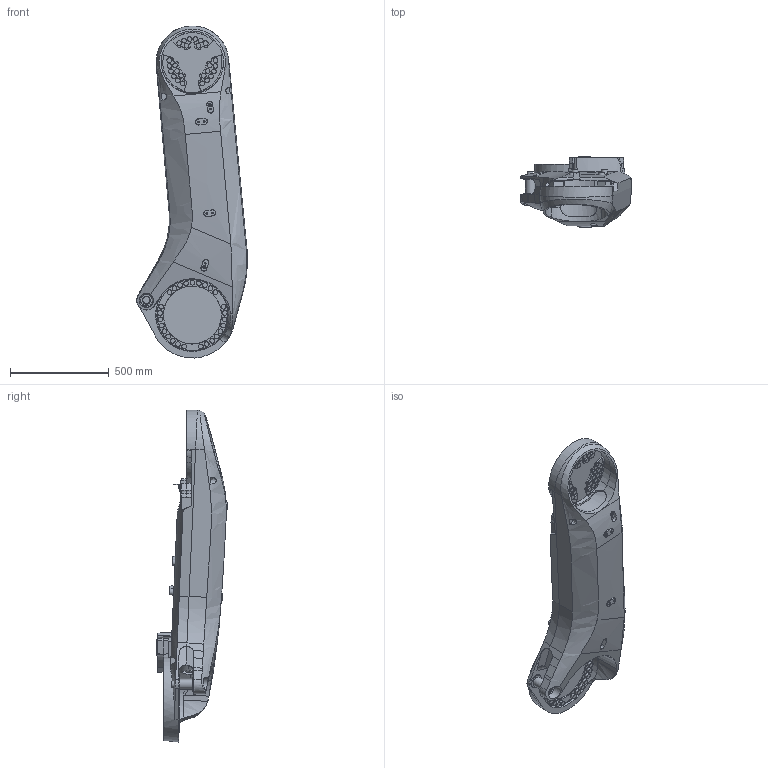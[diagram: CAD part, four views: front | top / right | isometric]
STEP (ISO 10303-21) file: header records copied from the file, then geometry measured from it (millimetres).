
FILE_DESCRIPTION (( 'STEP AP214' ), '1' );
FILE_NAME ('IRB6750S_All_OC_00_LINK02_CAD.step', '2026-05-13T05:41:41', ( '' ), ( '' ), 'SwSTEP 2.0', 'SolidWorks 2024', '' );
FILE_SCHEMA (( 'AUTOMOTIVE_DESIGN' ));
Length unit declared in the file: millimetre
Products named in the file (1): IRB6750S_All_OC_00_LINK02_CAD
Bounding box: 561.52 x 358 x 1680.66 mm (x, y, z)
Volume: 95146346.1 mm3; surface area: 2390335.5 mm2
Topology: 1 solids, 28 shells, 737 faces, 1753 edges, 1176 vertices
Faces by surface type: plane 380, cylinder 180, bspline 141, cone 34, torus 2
Full cylindrical faces by diameter (mm): 4.8 x2, 6.8 x4, 7 x4, 8.5 x8, 12 x2, 14 x1, 16 x29, 17 x27, 17.9 x2, 18 x2, 24 x53, 50 x1, 295 x1, 335 x1, 360 x2, 401.2 x1
Entity records: 57277 total; most frequent: CARTESIAN_POINT 34750, ORIENTED_EDGE 2888, DIRECTION 2430, EDGE_CURVE 1444, EDGE_LOOP 1086, VERTEX_POINT 1056, AXIS2_PLACEMENT_3D 941, FACE_OUTER_BOUND 897
